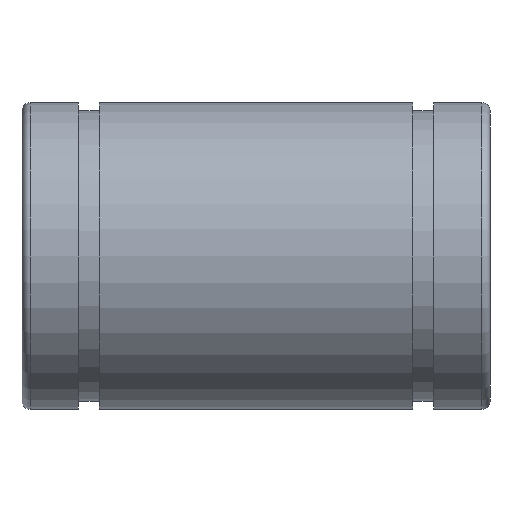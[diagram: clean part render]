
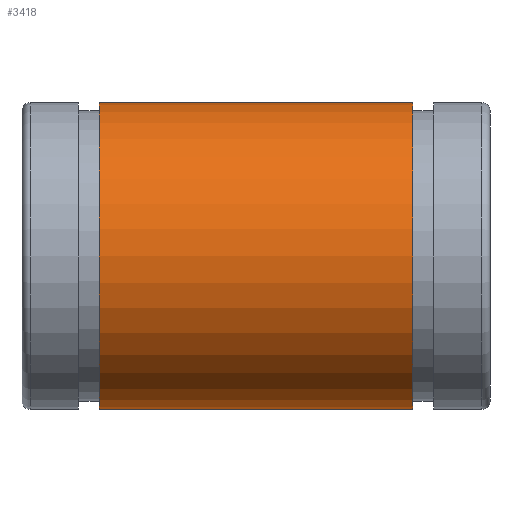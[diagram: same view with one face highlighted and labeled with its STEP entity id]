
A CAD part, front view. The second image highlights one B-rep face of the part: STEP entity #3418.
In plain terms, the highlighted cylindrical face has radius 9.5 mm (diameter 19 mm), a full revolution.
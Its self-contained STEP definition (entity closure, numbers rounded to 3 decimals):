
#23=CYLINDRICAL_SURFACE('',#3565,9.5);
#38=CIRCLE('',#3566,9.5);
#39=CIRCLE('',#3567,9.5);
#67=FACE_BOUND('',#496,.T.);
#294=FACE_OUTER_BOUND('',#495,.T.);
#495=EDGE_LOOP('',(#3042));
#496=EDGE_LOOP('',(#3043));
#1649=VERTEX_POINT('',#5945);
#1650=VERTEX_POINT('',#5947);
#2120=EDGE_CURVE('',#1649,#1649,#38,.T.);
#2121=EDGE_CURVE('',#1650,#1650,#39,.T.);
#3042=ORIENTED_EDGE('',*,*,#2120,.F.);
#3043=ORIENTED_EDGE('',*,*,#2121,.T.);
#3418=ADVANCED_FACE('',(#294,#67),#23,.T.);
#3565=AXIS2_PLACEMENT_3D('',#5944,#4218,#4219);
#3566=AXIS2_PLACEMENT_3D('',#5946,#4220,#4221);
#3567=AXIS2_PLACEMENT_3D('',#5948,#4222,#4223);
#4218=DIRECTION('center_axis',(1.,0.,0.));
#4219=DIRECTION('ref_axis',(0.,1.,0.));
#4220=DIRECTION('center_axis',(1.,0.,0.));
#4221=DIRECTION('ref_axis',(0.,1.,0.));
#4222=DIRECTION('center_axis',(1.,0.,0.));
#4223=DIRECTION('ref_axis',(0.,1.,0.));
#5944=CARTESIAN_POINT('Origin',(0.,0.,0.));
#5945=CARTESIAN_POINT('',(9.7,-9.5,0.));
#5946=CARTESIAN_POINT('Origin',(9.7,0.,0.));
#5947=CARTESIAN_POINT('',(-9.7,-9.5,0.));
#5948=CARTESIAN_POINT('Origin',(-9.7,0.,0.));
